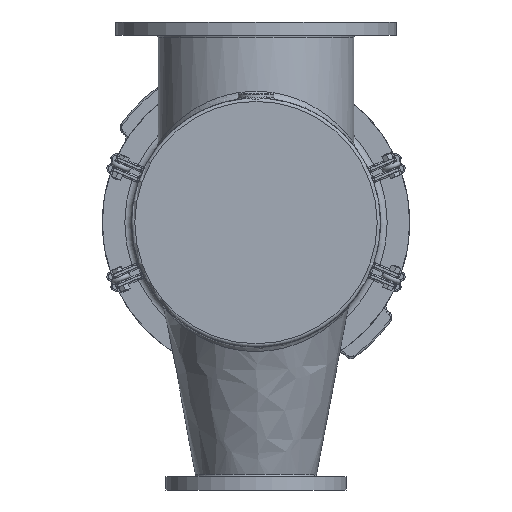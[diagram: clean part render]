
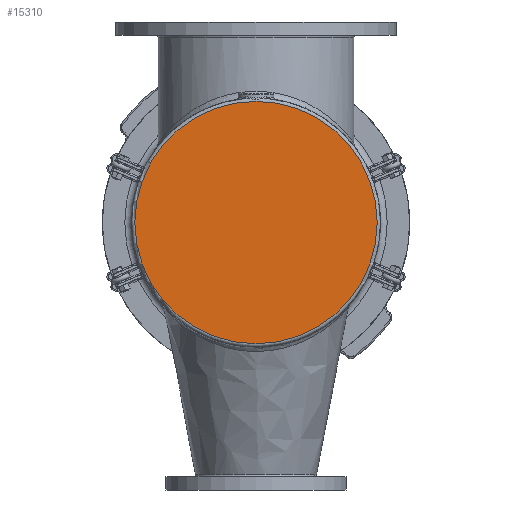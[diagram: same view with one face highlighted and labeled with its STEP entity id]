
A CAD part, front view. The second image highlights one B-rep face of the part: STEP entity #15310.
In plain terms, the highlighted planar face has unit normal (0, -1, 0).
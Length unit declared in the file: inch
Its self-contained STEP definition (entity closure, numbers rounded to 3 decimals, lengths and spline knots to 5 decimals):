
#2183=PLANE('',#16339);
#3455=FACE_OUTER_BOUND('',#4439,.T.);
#4439=EDGE_LOOP('',(#10195));
#5632=CIRCLE('',#16331,9.0625);
#6585=VERTEX_POINT('',#23416);
#7972=EDGE_CURVE('',#6585,#6585,#5632,.T.);
#10195=ORIENTED_EDGE('',*,*,#7972,.F.);
#15310=ADVANCED_FACE('',(#3455),#2183,.F.);
#16331=AXIS2_PLACEMENT_3D('',#23417,#18340,#18341);
#16339=AXIS2_PLACEMENT_3D('',#23428,#18356,#18357);
#18340=DIRECTION('center_axis',(0.,1.,0.));
#18341=DIRECTION('ref_axis',(1.,0.,0.));
#18356=DIRECTION('center_axis',(0.,1.,0.));
#18357=DIRECTION('ref_axis',(0.,0.,1.));
#23416=CARTESIAN_POINT('',(-9.0625,0.,0.));
#23417=CARTESIAN_POINT('Origin',(0.,0.,0.));
#23428=CARTESIAN_POINT('Origin',(0.,0.,0.));
